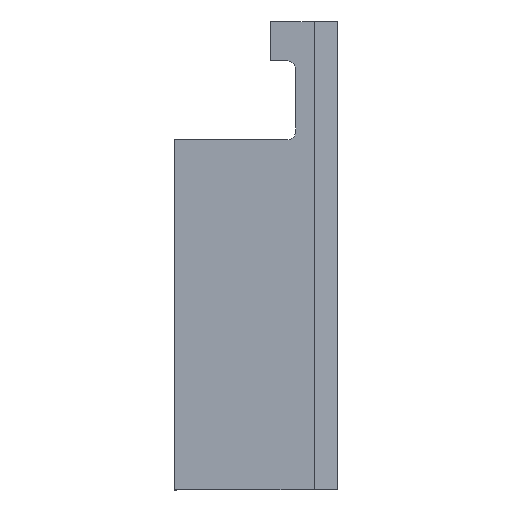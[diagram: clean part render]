
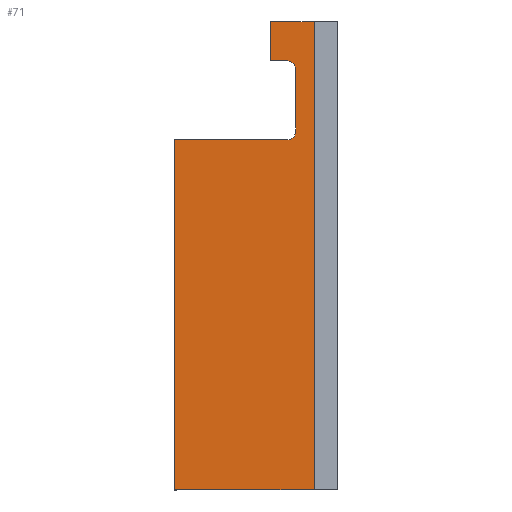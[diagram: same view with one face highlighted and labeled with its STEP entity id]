
A CAD part, left-side view. The second image highlights one B-rep face of the part: STEP entity #71.
In plain terms, the highlighted planar face has unit normal (-1, 0, 0).
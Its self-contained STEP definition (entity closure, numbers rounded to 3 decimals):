
#71=ADVANCED_FACE('',(#583),#585,.F.);
#583=FACE_BOUND('',#584,.T.);
#584=EDGE_LOOP('',(#1044,#1045,#1046,#1047,#1048,#1049,#1050,#1051,#1052,#1053));
#585=PLANE('',#586);
#586=AXIS2_PLACEMENT_3D('',#587,#588,#589);
#587=CARTESIAN_POINT('',(-280.,0.,0.));
#588=DIRECTION('',(1.,0.,0.));
#589=DIRECTION('',(0.,1.,0.));
#1044=ORIENTED_EDGE('',*,*,#1199,.F.);
#1045=ORIENTED_EDGE('',*,*,#1200,.F.);
#1046=ORIENTED_EDGE('',*,*,#1201,.F.);
#1047=ORIENTED_EDGE('',*,*,#1202,.F.);
#1048=ORIENTED_EDGE('',*,*,#1203,.F.);
#1049=ORIENTED_EDGE('',*,*,#1204,.F.);
#1050=ORIENTED_EDGE('',*,*,#1205,.F.);
#1051=ORIENTED_EDGE('',*,*,#1206,.F.);
#1052=ORIENTED_EDGE('',*,*,#1189,.F.);
#1053=ORIENTED_EDGE('',*,*,#1207,.F.);
#1189=EDGE_CURVE('',#1267,#1268,#1269,.T.);
#1199=EDGE_CURVE('',#1287,#1288,#1289,.T.);
#1200=EDGE_CURVE('',#1290,#1287,#1291,.T.);
#1201=EDGE_CURVE('',#1292,#1290,#1293,.T.);
#1202=EDGE_CURVE('',#1294,#1292,#1295,.T.);
#1203=EDGE_CURVE('',#1296,#1294,#1297,.F.);
#1204=EDGE_CURVE('',#1298,#1296,#1299,.T.);
#1205=EDGE_CURVE('',#1300,#1298,#1301,.F.);
#1206=EDGE_CURVE('',#1268,#1300,#1302,.T.);
#1207=EDGE_CURVE('',#1288,#1267,#1303,.T.);
#1267=VERTEX_POINT('',#1411);
#1268=VERTEX_POINT('',#1412);
#1269=LINE('',#1413,#1414);
#1287=VERTEX_POINT('',#1457);
#1288=VERTEX_POINT('',#1458);
#1289=LINE('',#1459,#1460);
#1290=VERTEX_POINT('',#1462);
#1291=LINE('',#1463,#1464);
#1292=VERTEX_POINT('',#1466);
#1293=LINE('',#1467,#1468);
#1294=VERTEX_POINT('',#1470);
#1295=LINE('',#1471,#1472);
#1296=VERTEX_POINT('',#1474);
#1297=CIRCLE('',#1475,0.5);
#1298=VERTEX_POINT('',#1479);
#1299=LINE('',#1480,#1481);
#1300=VERTEX_POINT('',#1483);
#1301=CIRCLE('',#1484,0.5);
#1302=LINE('',#1488,#1489);
#1303=LINE('',#1491,#1492);
#1411=CARTESIAN_POINT('',(-280.,0.,-13.2));
#1412=CARTESIAN_POINT('',(-280.,0.,9.4));
#1413=CARTESIAN_POINT('',(-280.,0.,-13.2));
#1414=VECTOR('',#1415,1.);
#1415=DIRECTION('',(0.,0.,1.));
#1457=CARTESIAN_POINT('',(-280.,-9.,17.));
#1458=CARTESIAN_POINT('',(-280.,-9.,-13.2));
#1459=CARTESIAN_POINT('',(-280.,-9.,17.));
#1460=VECTOR('',#1461,1.);
#1461=DIRECTION('',(0.,0.,-1.));
#1462=CARTESIAN_POINT('',(-280.,-6.2,17.));
#1463=CARTESIAN_POINT('',(-280.,-6.2,17.));
#1464=VECTOR('',#1465,1.);
#1465=DIRECTION('',(0.,-1.,0.));
#1466=CARTESIAN_POINT('',(-280.,-6.2,14.5));
#1467=CARTESIAN_POINT('',(-280.,-6.2,14.5));
#1468=VECTOR('',#1469,1.);
#1469=DIRECTION('',(0.,0.,1.));
#1470=CARTESIAN_POINT('',(-280.,-7.3,14.5));
#1471=CARTESIAN_POINT('',(-280.,-7.3,14.5));
#1472=VECTOR('',#1473,1.);
#1473=DIRECTION('',(0.,1.,0.));
#1474=CARTESIAN_POINT('',(-280.,-7.8,14.));
#1475=AXIS2_PLACEMENT_3D('',#1476,#1477,#1478);
#1476=CARTESIAN_POINT('',(-280.,-7.3,14.));
#1477=DIRECTION('',(1.,0.,0.));
#1478=DIRECTION('',(0.,0.,1.));
#1479=CARTESIAN_POINT('',(-280.,-7.8,9.9));
#1480=CARTESIAN_POINT('',(-280.,-7.8,9.9));
#1481=VECTOR('',#1482,1.);
#1482=DIRECTION('',(0.,0.,1.));
#1483=CARTESIAN_POINT('',(-280.,-7.3,9.4));
#1484=AXIS2_PLACEMENT_3D('',#1485,#1486,#1487);
#1485=CARTESIAN_POINT('',(-280.,-7.3,9.9));
#1486=DIRECTION('',(1.,0.,0.));
#1487=DIRECTION('',(0.,-1.,0.));
#1488=CARTESIAN_POINT('',(-280.,0.,9.4));
#1489=VECTOR('',#1490,1.);
#1490=DIRECTION('',(0.,-1.,0.));
#1491=CARTESIAN_POINT('',(-280.,-9.,-13.2));
#1492=VECTOR('',#1493,1.);
#1493=DIRECTION('',(0.,1.,0.));
